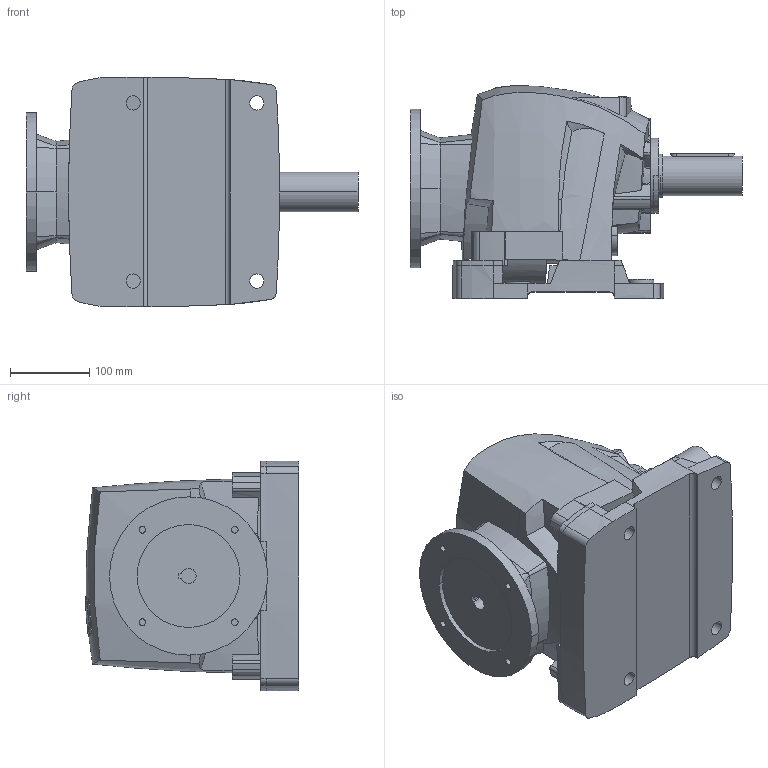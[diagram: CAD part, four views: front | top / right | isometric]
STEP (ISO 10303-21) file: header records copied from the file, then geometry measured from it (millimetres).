
FILE_DESCRIPTION((''),'2;1');
FILE_NAME('R40_BF_PAM80_D2','2013-11-27T',('Luca'),(''),'PRO/ENGINEER BY PARAMETRIC TECHNOLOGY CORPORATION, 2008230','PRO/ENGINEER BY PARAMETRIC TECHNOLOGY CORPORATION, 2008230','');
FILE_SCHEMA(('CONFIG_CONTROL_DESIGN'));
Length unit declared in the file: millimetre
Products named in the file (1): R40_BF_PAM80_D2
Bounding box: 419.5 x 269.38 x 290.23 mm (x, y, z)
Volume: 13407533.9 mm3; surface area: 592877.8 mm2
Topology: 1 solids, 1 shells, 515 faces, 1457 edges, 972 vertices
Faces by surface type: cylinder 182, plane 180, bspline 81, extrusion 44, cone 20, torus 8
Entity records: 21601 total; most frequent: CARTESIAN_POINT 9113, ORIENTED_EDGE 2910, DIRECTION 2080, EDGE_CURVE 1455, VERTEX_POINT 972, AXIS2_PLACEMENT_3D 695, VECTOR 690, LINE 646
